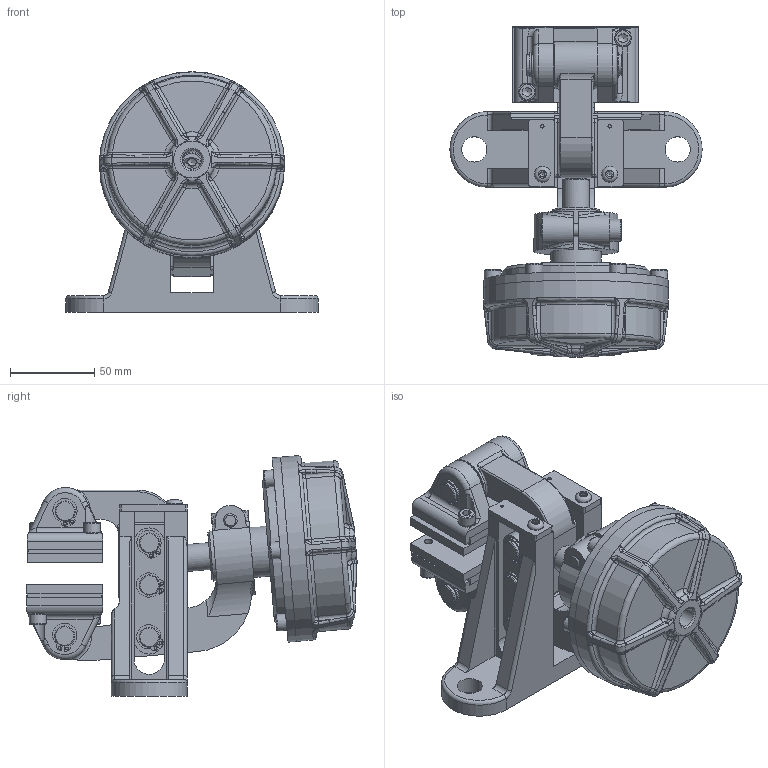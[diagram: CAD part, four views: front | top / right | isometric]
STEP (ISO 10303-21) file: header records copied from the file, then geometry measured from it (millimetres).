
FILE_DESCRIPTION(/* description */ ('','CAx-IF Rec.Pracs.---Representation and Presentation of Product Manufacturing Information (PMI)---4.0---2014-10-13'),/* implementation_level */ '2;1');
FILE_NAME(/* name */ 'X:\INVENTOR\DISEGNI\19_Pinze\STEP x Sito\PNEUM-POSITIVE\19_16_012_03 PPD012_12,7.stp',/* time_stamp */ '2018-02-14T07:39:41+01:00',/* author */ ('stefano'),/* organization */ (''),/* preprocessor_version */ 'ST-DEVELOPER v17',/* originating_system */ 'Autodesk Inventor 2018',/* authorisation */ '');
FILE_SCHEMA (('AP242_MANAGED_MODEL_BASED_3D_ENGINEERING_MIM_LF { 1 0 10303 442 1 1 4 }'));
Products named in the file (1): 19_16_012_03 PPD012_12,7 - 2017_Substitute_2
Bounding box: 150 x 196.37 x 143.09 mm (x, y, z)
Volume: 801039.9 mm3; surface area: 171177.5 mm2
Topology: 6 solids, 6 shells, 1096 faces, 2961 edges, 1897 vertices
Faces by surface type: plane 478, cylinder 280, bspline 180, torus 74, cone 71, sphere 13
Full cylindrical faces by diameter (mm): 1.7 x20, 2 x2, 3 x1, 4.134 x1, 4.917 x8, 5 x2, 6 x1, 7.25 x3, 8 x2, 8.5 x1, 9.5 x4, 10 x14, 11.445 x1, 11.5 x10, 12 x23, 13 x2, 13.5 x1, 15 x2, 16 x2, 19 x1, 22.6 x1, 30 x1, 35 x1, 88 x1, 89 x1, 110 x2
Entity records: 44175 total; most frequent: CARTESIAN_POINT 16308, ORIENTED_EDGE 5852, DIRECTION 5367, EDGE_CURVE 2926, AXIS2_PLACEMENT_3D 2092, VERTEX_POINT 1897, EDGE_LOOP 1209, LINE 1183
